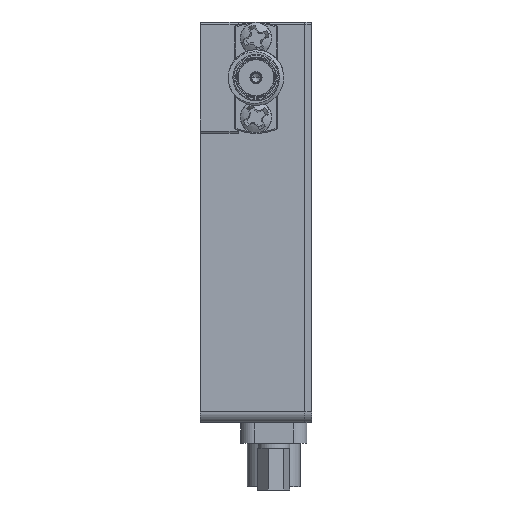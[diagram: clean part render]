
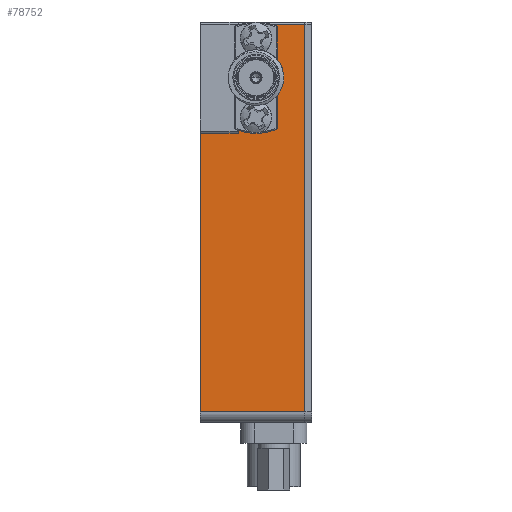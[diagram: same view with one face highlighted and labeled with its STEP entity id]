
A CAD part, left-side view. The second image highlights one B-rep face of the part: STEP entity #78752.
In plain terms, the highlighted planar face has unit normal (-1, 0, 0).
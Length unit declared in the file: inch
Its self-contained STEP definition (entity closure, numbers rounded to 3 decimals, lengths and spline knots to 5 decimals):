
#921 = CARTESIAN_POINT ( 'NONE',  ( 0., -0.25, -0.25 ) ) ;
#1158 = VERTEX_POINT ( 'NONE', #80323 ) ;
#1940 = DIRECTION ( 'NONE',  ( -1., 0., 0. ) ) ;
#2305 = EDGE_CURVE ( 'NONE', #26671, #44256, #42021, .T. ) ;
#2770 = VECTOR ( 'NONE', #39816, 39.37008 ) ;
#5201 = VERTEX_POINT ( 'NONE', #62520 ) ;
#5267 = CIRCLE ( 'NONE', #90530, 0.043 ) ;
#6369 = VERTEX_POINT ( 'NONE', #67552 ) ;
#6388 = CARTESIAN_POINT ( 'NONE',  ( 0., -0.469, -0.01 ) ) ;
#7298 = DIRECTION ( 'NONE',  ( -1., 0., 0. ) ) ;
#7468 = CIRCLE ( 'NONE', #24273, 0.043 ) ;
#8168 = ORIENTED_EDGE ( 'NONE', *, *, #97009, .F. ) ;
#8818 = EDGE_CURVE ( 'NONE', #19131, #27806, #47862, .T. ) ;
#9959 = CARTESIAN_POINT ( 'NONE',  ( 0., -0.25, -0.3895 ) ) ;
#10120 = ORIENTED_EDGE ( 'NONE', *, *, #50050, .F. ) ;
#13293 = FACE_BOUND ( 'NONE', #25799, .T. ) ;
#15331 = DIRECTION ( 'NONE',  ( 1., 0., 0. ) ) ;
#16485 = VECTOR ( 'NONE', #36291, 39.37008 ) ;
#18519 = VECTOR ( 'NONE', #35364, 39.37008 ) ;
#19131 = VERTEX_POINT ( 'NONE', #94088 ) ;
#23333 = CARTESIAN_POINT ( 'NONE',  ( 0., -0.17, -0.01 ) ) ;
#24273 = AXIS2_PLACEMENT_3D ( 'NONE', #38013, #71564, #103423 ) ;
#24426 = DIRECTION ( 'NONE',  ( 0., 0., 1. ) ) ;
#25799 = EDGE_LOOP ( 'NONE', ( #30538, #63146 ) ) ;
#26671 = VERTEX_POINT ( 'NONE', #54471 ) ;
#27029 = CARTESIAN_POINT ( 'NONE',  ( 0., -0.17, 0. ) ) ;
#27806 = VERTEX_POINT ( 'NONE', #49034 ) ;
#27932 = AXIS2_PLACEMENT_3D ( 'NONE', #94246, #7298, #94763 ) ;
#28226 = VECTOR ( 'NONE', #46470, 39.37008 ) ;
#29206 = CIRCLE ( 'NONE', #82739, 0.049 ) ;
#30538 = ORIENTED_EDGE ( 'NONE', *, *, #8818, .F. ) ;
#30798 = EDGE_CURVE ( 'NONE', #69449, #44256, #86083, .T. ) ;
#31995 = VERTEX_POINT ( 'NONE', #67746 ) ;
#32201 = EDGE_LOOP ( 'NONE', ( #37103, #8168 ) ) ;
#32344 = CARTESIAN_POINT ( 'NONE',  ( 0., -0.25, -0.0675 ) ) ;
#35364 = DIRECTION ( 'NONE',  ( 0., 0., 1. ) ) ;
#35402 = ORIENTED_EDGE ( 'NONE', *, *, #64252, .T. ) ;
#36291 = DIRECTION ( 'NONE',  ( 0., 1., 0. ) ) ;
#37103 = ORIENTED_EDGE ( 'NONE', *, *, #89153, .F. ) ;
#38013 = CARTESIAN_POINT ( 'NONE',  ( 0., -0.25, -0.0675 ) ) ;
#39816 = DIRECTION ( 'NONE',  ( 0., 1., 0. ) ) ;
#40046 = ORIENTED_EDGE ( 'NONE', *, *, #40347, .T. ) ;
#40058 = CARTESIAN_POINT ( 'NONE',  ( 0., -0.25, -0.4325 ) ) ;
#40347 = EDGE_CURVE ( 'NONE', #69449, #6369, #49079, .T. ) ;
#42021 = LINE ( 'NONE', #83528, #16485 ) ;
#42701 = ORIENTED_EDGE ( 'NONE', *, *, #92328, .F. ) ;
#44212 = CIRCLE ( 'NONE', #64295, 0.043 ) ;
#44256 = VERTEX_POINT ( 'NONE', #23333 ) ;
#45088 = PLANE ( 'NONE',  #71472 ) ;
#45809 = ORIENTED_EDGE ( 'NONE', *, *, #72546, .F. ) ;
#46470 = DIRECTION ( 'NONE',  ( 0., 0., -1. ) ) ;
#47004 = CARTESIAN_POINT ( 'NONE',  ( 0., 0., -0.01 ) ) ;
#47183 = VERTEX_POINT ( 'NONE', #75969 ) ;
#47862 = CIRCLE ( 'NONE', #27932, 0.049 ) ;
#48491 = DIRECTION ( 'NONE',  ( -1., 0., 0. ) ) ;
#48883 = DIRECTION ( 'NONE',  ( -1., 0., 0. ) ) ;
#49034 = CARTESIAN_POINT ( 'NONE',  ( 0., -0.25, -0.299 ) ) ;
#49079 = LINE ( 'NONE', #55423, #76593 ) ;
#50050 = EDGE_CURVE ( 'NONE', #80271, #1158, #70262, .T. ) ;
#50476 = AXIS2_PLACEMENT_3D ( 'NONE', #40058, #48883, #24426 ) ;
#52456 = FACE_OUTER_BOUND ( 'NONE', #69436, .T. ) ;
#52473 = LINE ( 'NONE', #47004, #28226 ) ;
#54471 = CARTESIAN_POINT ( 'NONE',  ( 0., -0.469, -0.01 ) ) ;
#55423 = CARTESIAN_POINT ( 'NONE',  ( 0., -0.17, -0.5 ) ) ;
#57942 = DIRECTION ( 'NONE',  ( 0., 0., 1. ) ) ;
#58013 = CARTESIAN_POINT ( 'NONE',  ( 0., -0.25, -0.4325 ) ) ;
#59042 = CARTESIAN_POINT ( 'NONE',  ( 0., -0.469, -1.75 ) ) ;
#62520 = CARTESIAN_POINT ( 'NONE',  ( 0., -0.25, -0.1105 ) ) ;
#63146 = ORIENTED_EDGE ( 'NONE', *, *, #88972, .F. ) ;
#64252 = EDGE_CURVE ( 'NONE', #6369, #1158, #52473, .T. ) ;
#64295 = AXIS2_PLACEMENT_3D ( 'NONE', #58013, #81714, #89484 ) ;
#67552 = CARTESIAN_POINT ( 'NONE',  ( 0., 0., -0.5 ) ) ;
#67746 = CARTESIAN_POINT ( 'NONE',  ( 0., -0.25, -0.4755 ) ) ;
#68970 = CIRCLE ( 'NONE', #50476, 0.043 ) ;
#69107 = VECTOR ( 'NONE', #101200, 39.37008 ) ;
#69307 = CARTESIAN_POINT ( 'NONE',  ( 0., -0.469, -0.01 ) ) ;
#69436 = EDGE_LOOP ( 'NONE', ( #77244, #40046, #35402, #10120, #42701, #91199 ) ) ;
#69449 = VERTEX_POINT ( 'NONE', #91996 ) ;
#70262 = LINE ( 'NONE', #78691, #2770 ) ;
#71472 = AXIS2_PLACEMENT_3D ( 'NONE', #6388, #15331, #79227 ) ;
#71564 = DIRECTION ( 'NONE',  ( -1., 0., 0. ) ) ;
#72546 = EDGE_CURVE ( 'NONE', #31995, #82942, #44212, .T. ) ;
#72743 = DIRECTION ( 'NONE',  ( 0., 0., 1. ) ) ;
#75969 = CARTESIAN_POINT ( 'NONE',  ( 0., -0.25, -0.0245 ) ) ;
#76127 = FACE_BOUND ( 'NONE', #103449, .T. ) ;
#76593 = VECTOR ( 'NONE', #81187, 39.37008 ) ;
#77244 = ORIENTED_EDGE ( 'NONE', *, *, #30798, .F. ) ;
#78691 = CARTESIAN_POINT ( 'NONE',  ( 0., -0.469, -1.75 ) ) ;
#78752 = ADVANCED_FACE ( 'NONE', ( #76127, #85050, #13293, #52456 ), #45088, .F. ) ;
#79227 = DIRECTION ( 'NONE',  ( 0., 0., -1. ) ) ;
#80271 = VERTEX_POINT ( 'NONE', #59042 ) ;
#80323 = CARTESIAN_POINT ( 'NONE',  ( 0., 0., -1.75 ) ) ;
#81070 = ORIENTED_EDGE ( 'NONE', *, *, #90950, .F. ) ;
#81187 = DIRECTION ( 'NONE',  ( 0., 1., 0. ) ) ;
#81714 = DIRECTION ( 'NONE',  ( -1., 0., 0. ) ) ;
#82739 = AXIS2_PLACEMENT_3D ( 'NONE', #921, #1940, #57942 ) ;
#82942 = VERTEX_POINT ( 'NONE', #9959 ) ;
#83528 = CARTESIAN_POINT ( 'NONE',  ( 0., -0.469, -0.01 ) ) ;
#85050 = FACE_BOUND ( 'NONE', #32201, .T. ) ;
#86083 = LINE ( 'NONE', #27029, #18519 ) ;
#88972 = EDGE_CURVE ( 'NONE', #27806, #19131, #29206, .T. ) ;
#89153 = EDGE_CURVE ( 'NONE', #47183, #5201, #7468, .T. ) ;
#89484 = DIRECTION ( 'NONE',  ( 0., 0., 1. ) ) ;
#90530 = AXIS2_PLACEMENT_3D ( 'NONE', #32344, #48491, #72743 ) ;
#90950 = EDGE_CURVE ( 'NONE', #82942, #31995, #68970, .T. ) ;
#91199 = ORIENTED_EDGE ( 'NONE', *, *, #2305, .T. ) ;
#91996 = CARTESIAN_POINT ( 'NONE',  ( 0., -0.17, -0.5 ) ) ;
#92328 = EDGE_CURVE ( 'NONE', #26671, #80271, #101724, .T. ) ;
#94088 = CARTESIAN_POINT ( 'NONE',  ( 0., -0.25, -0.201 ) ) ;
#94246 = CARTESIAN_POINT ( 'NONE',  ( 0., -0.25, -0.25 ) ) ;
#94763 = DIRECTION ( 'NONE',  ( 0., 0., 1. ) ) ;
#97009 = EDGE_CURVE ( 'NONE', #5201, #47183, #5267, .T. ) ;
#101200 = DIRECTION ( 'NONE',  ( 0., 0., -1. ) ) ;
#101724 = LINE ( 'NONE', #69307, #69107 ) ;
#103423 = DIRECTION ( 'NONE',  ( 0., 0., 1. ) ) ;
#103449 = EDGE_LOOP ( 'NONE', ( #81070, #45809 ) ) ;
